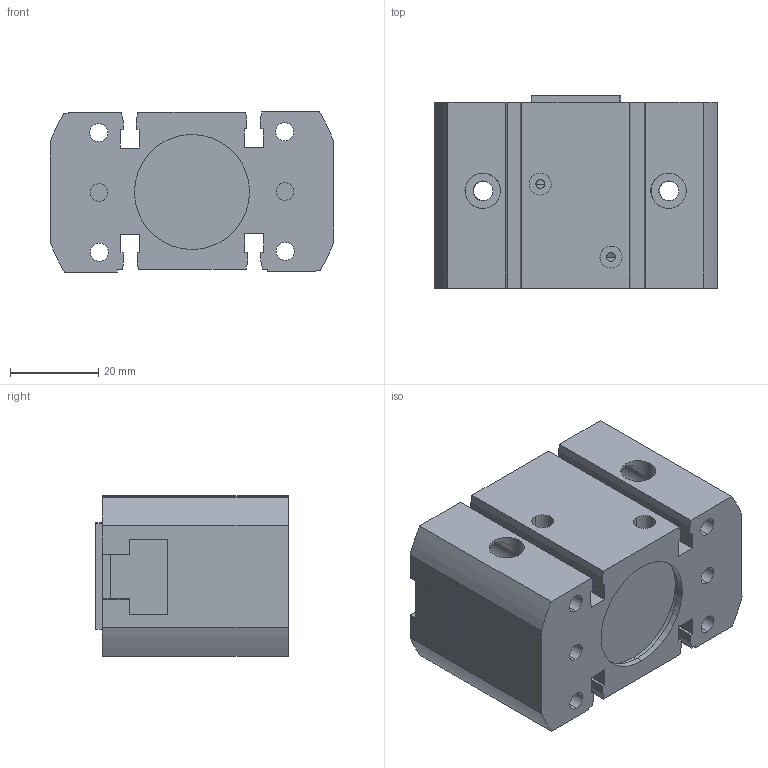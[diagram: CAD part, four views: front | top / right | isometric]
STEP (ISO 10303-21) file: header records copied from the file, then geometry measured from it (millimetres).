
FILE_DESCRIPTION (( 'STEP AP214' ), '1' );
FILE_NAME ('MCHQ64.STEP', '2013-10-22T20:30:38', ( 'user' ), ( '' ), 'SwSTEP 2.0', 'SolidWorks 2009', '' );
FILE_SCHEMA (( 'AUTOMOTIVE_DESIGN' ));
Length unit declared in the file: inch
Products named in the file (4): MCHQ-64; CQ-64001_預設; CQ-64002_預設; MCHQ64
Assembly tree (3 placements, depth 3):
  MCHQ64
    MCHQ-64
      CQ-64001_預設
      CQ-64002_預設
Bounding box: 64.12 x 43.5 x 36.3 mm (x, y, z)
Volume: 71772.5 mm3; surface area: 30594.4 mm2
Topology: 2 solids, 2 shells, 205 faces, 534 edges, 348 vertices
Faces by surface type: plane 121, cylinder 84
Entity records: 7101 total; most frequent: CARTESIAN_POINT 1700, DIRECTION 1092, ORIENTED_EDGE 1068, EDGE_CURVE 534, AXIS2_PLACEMENT_3D 368, LINE 356, VECTOR 356, VERTEX_POINT 348
